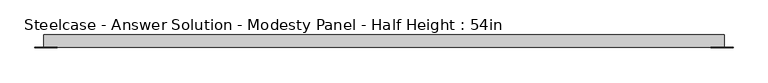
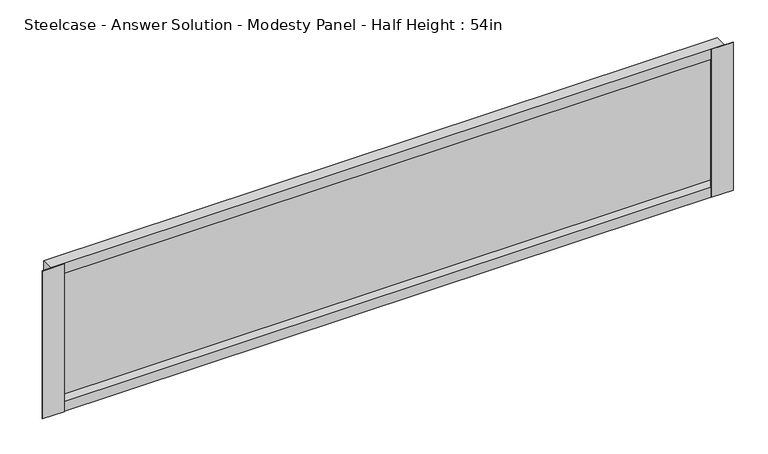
"""IFC4 building model written with IfcOpenShell, lengths in millimetres: furniture geometry, Steelcase - Answer Solution - Modesty Panel - Half Height : 54in."""

from ifc_helpers import new_model, si_unit, frame, origin, place, context, project, spatial, polyline, outline, extrude, faceted_brep, source, transform, mapped, element, save


def steelcase_answer_solution_modesty_panel_half_height_54in_2e78a3e8(model_context):
    return source(origin(), model_context, "Body", "SolidModel", [
        extrude(outline(polyline([(1915.1400478, -14.2668826), (1915.1400478, -15.0593624), (1870.7248254, -15.0593624), (1870.7248254, -14.2668826), (1915.1400478, -14.2668826)])), frame((0.0, 0.0, 17.653), z_axis=(0.0, 0.0, 1.0), x_axis=(1.0, 0.0, 0.0)), (0.0, 0.0, 1.0), 317.5),
        extrude(outline(polyline([(556.9673392, -14.2668826), (556.9673392, -15.0593624), (512.5520826, -15.0593624), (512.5520826, -14.2668826), (556.9673392, -14.2668826)])), frame((0.0, 0.0, 17.653), z_axis=(0.0, 0.0, 1.0), x_axis=(1.0, 0.0, 0.0)), (0.0, 0.0, 1.0), 317.5),
        faceted_brep([(530.0780827, 10.9045177, 17.653), (530.0780827, -14.2668826, 17.653), (530.0780827, -14.2668826, 335.153), (530.0780827, 10.9045177, 335.153), (1897.6140827, -14.2668826, 17.653), (1897.6140827, 10.9045177, 17.653), (1897.6140827, 10.9045177, 335.153), (1897.6140827, -14.2668826, 335.153), (1896.8216165, 4.7831174, 39.243), (530.8705628, 4.7831174, 39.243), (530.8705628, -14.2668826, 39.243), (1896.8216165, -14.2668826, 39.243), (530.8705628, -14.2668826, 313.563), (1896.8216165, -14.2668826, 313.563), (530.8705628, 4.7831174, 313.563), (1896.8216165, 4.7831174, 313.563)], [[[0, 1, 2, 3]], [[4, 5, 6, 7]], [[8, 9, 10, 11]], [[0, 3, 6, 5]], [[4, 1, 0, 5]], [[2, 1, 4, 7], [10, 12, 13, 11]], [[3, 2, 7, 6]], [[14, 15, 13, 12]], [[9, 8, 15, 14]], [[12, 10, 9, 14]], [[11, 13, 15, 8]]]),
    ])


if __name__ == "__main__":
    model = new_model("IFC4")
    model_context = context("Model", 3, world=origin())
    ifc_project = project(units=[si_unit("LENGTHUNIT", "METRE", prefix="MILLI")], contexts=[model_context])
    site = spatial("IfcSite", under=ifc_project)
    building = spatial("IfcBuilding", under=site)
    placement = place(None, origin())
    steelcase_answer_solution_modesty_panel_half_height_54in_shape = steelcase_answer_solution_modesty_panel_half_height_54in_2e78a3e8(model_context)
    element("IfcFurniture", 1, ObjectType="Steelcase - Answer Solution - Modesty Panel - Half Height : 54in", at=placement, inside=building, context=model_context, shape_type="MappedRepresentation", body=[
        mapped(steelcase_answer_solution_modesty_panel_half_height_54in_shape, transform((0.0, 0.0, 0.0), x_axis=(1.0, 0.0, 0.0), y_axis=(0.0, 1.0, 0.0), z_axis=(0.0, 0.0, 1.0))),
    ])
    save(model, "model.ifc")
